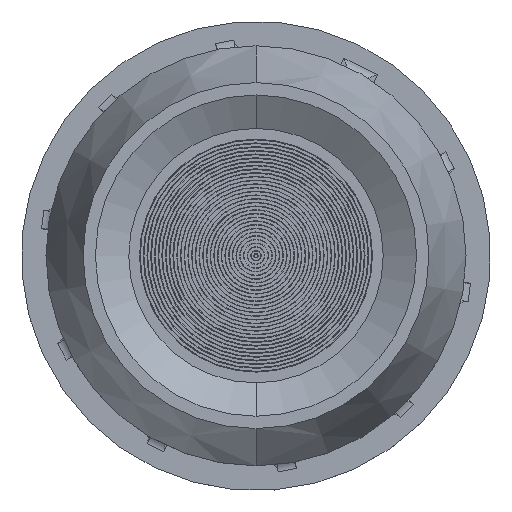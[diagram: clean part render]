
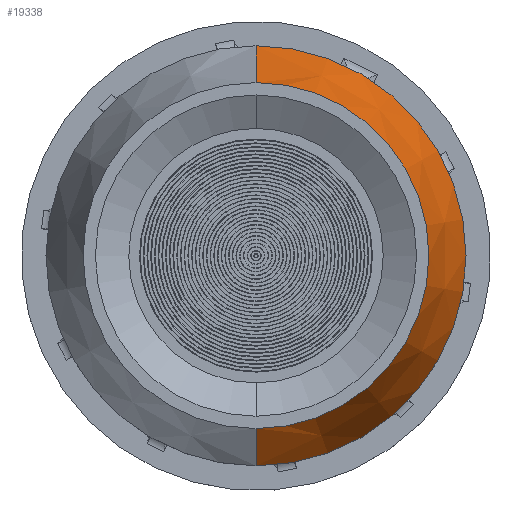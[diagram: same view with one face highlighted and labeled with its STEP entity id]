
A CAD part, top view. The second image highlights one B-rep face of the part: STEP entity #19338.
In plain terms, the highlighted conical face has half-angle 18.435 degrees and reference radius 8.5 mm.
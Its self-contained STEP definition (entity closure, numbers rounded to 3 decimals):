
#785 = CARTESIAN_POINT ( 'NONE',  ( 0., 22.5, 8.5 ) ) ;
#1041 = ORIENTED_EDGE ( 'NONE', *, *, #7906, .F. ) ;
#1759 = CONICAL_SURFACE ( 'NONE', #5566, 8.5, 0.322 ) ;
#3200 = LINE ( 'NONE', #23333, #21906 ) ;
#3371 = DIRECTION ( 'NONE',  ( 0., -0.949, 0.316 ) ) ;
#3586 = LINE ( 'NONE', #14955, #17491 ) ;
#4124 = CARTESIAN_POINT ( 'NONE',  ( 0., 22.5, 0. ) ) ;
#4469 = EDGE_CURVE ( 'NONE', #16405, #21519, #18825, .T. ) ;
#5177 = DIRECTION ( 'NONE',  ( 0., 0., -1. ) ) ;
#5566 = AXIS2_PLACEMENT_3D ( 'NONE', #9384, #11308, #11149 ) ;
#5933 = ORIENTED_EDGE ( 'NONE', *, *, #19159, .T. ) ;
#7906 = EDGE_CURVE ( 'NONE', #8606, #15151, #13886, .T. ) ;
#8505 = CARTESIAN_POINT ( 'NONE',  ( 0., 27., 0. ) ) ;
#8606 = VERTEX_POINT ( 'NONE', #20202 ) ;
#8696 = AXIS2_PLACEMENT_3D ( 'NONE', #4124, #16977, #9589 ) ;
#9384 = CARTESIAN_POINT ( 'NONE',  ( 0., 22.5, 0. ) ) ;
#9589 = DIRECTION ( 'NONE',  ( 0., 0., -1. ) ) ;
#11149 = DIRECTION ( 'NONE',  ( 0., 0., -1. ) ) ;
#11308 = DIRECTION ( 'NONE',  ( 0., -1., 0. ) ) ;
#11792 = EDGE_CURVE ( 'NONE', #16405, #8606, #3586, .T. ) ;
#13420 = CARTESIAN_POINT ( 'NONE',  ( 0., 27., -7. ) ) ;
#13886 = CIRCLE ( 'NONE', #8696, 8.5 ) ;
#14497 = EDGE_LOOP ( 'NONE', ( #16854, #5933, #1041, #19093 ) ) ;
#14955 = CARTESIAN_POINT ( 'NONE',  ( 0., 22.5, -8.5 ) ) ;
#15113 = DIRECTION ( 'NONE',  ( 0., -0.949, -0.316 ) ) ;
#15151 = VERTEX_POINT ( 'NONE', #785 ) ;
#16405 = VERTEX_POINT ( 'NONE', #13420 ) ;
#16849 = AXIS2_PLACEMENT_3D ( 'NONE', #8505, #23008, #5177 ) ;
#16854 = ORIENTED_EDGE ( 'NONE', *, *, #4469, .T. ) ;
#16977 = DIRECTION ( 'NONE',  ( 0., -1., 0. ) ) ;
#17380 = FACE_OUTER_BOUND ( 'NONE', #14497, .T. ) ;
#17491 = VECTOR ( 'NONE', #15113, 1000. ) ;
#18825 = CIRCLE ( 'NONE', #16849, 7. ) ;
#19093 = ORIENTED_EDGE ( 'NONE', *, *, #11792, .F. ) ;
#19159 = EDGE_CURVE ( 'NONE', #21519, #15151, #3200, .T. ) ;
#19338 = ADVANCED_FACE ( 'NONE', ( #17380 ), #1759, .T. ) ;
#20202 = CARTESIAN_POINT ( 'NONE',  ( 0., 22.5, -8.5 ) ) ;
#21519 = VERTEX_POINT ( 'NONE', #22578 ) ;
#21906 = VECTOR ( 'NONE', #3371, 1000. ) ;
#22578 = CARTESIAN_POINT ( 'NONE',  ( 0., 27., 7. ) ) ;
#23008 = DIRECTION ( 'NONE',  ( 0., -1., 0. ) ) ;
#23333 = CARTESIAN_POINT ( 'NONE',  ( 0., 22.5, 8.5 ) ) ;
